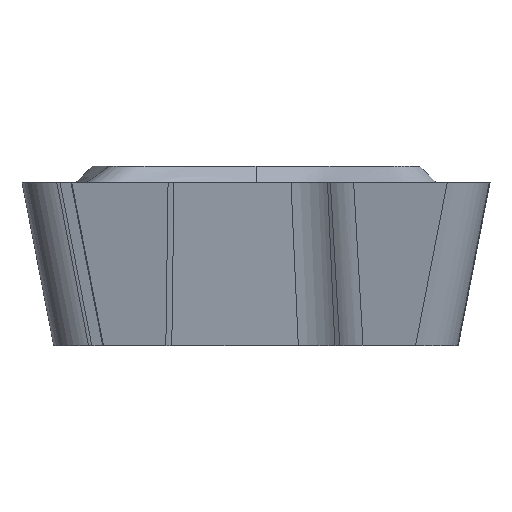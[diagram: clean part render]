
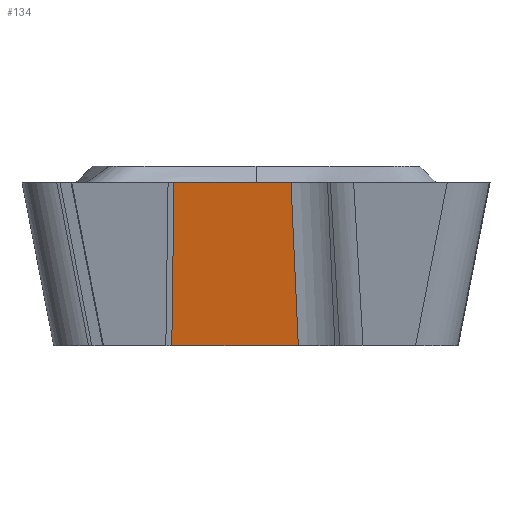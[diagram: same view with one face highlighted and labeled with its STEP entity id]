
A CAD part, front view. The second image highlights one B-rep face of the part: STEP entity #134.
In plain terms, the highlighted planar face has unit normal (0.137, -0.972, -0.191).
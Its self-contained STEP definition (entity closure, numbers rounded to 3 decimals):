
#81=FACE_OUTER_BOUND('',#232,.T.);
#134=ADVANCED_FACE('',(#81),#182,.T.);
#182=PLANE('',#1413);
#232=EDGE_LOOP('',(#407,#408,#409,#410));
#407=ORIENTED_EDGE('',*,*,#667,.F.);
#408=ORIENTED_EDGE('',*,*,#779,.T.);
#409=ORIENTED_EDGE('',*,*,#754,.T.);
#410=ORIENTED_EDGE('',*,*,#780,.T.);
#569=VERTEX_POINT('',#1858);
#570=VERTEX_POINT('',#1860);
#656=VERTEX_POINT('',#2153);
#657=VERTEX_POINT('',#2155);
#667=EDGE_CURVE('',#569,#570,#1138,.T.);
#754=EDGE_CURVE('',#657,#656,#1175,.T.);
#779=EDGE_CURVE('',#569,#657,#1194,.T.);
#780=EDGE_CURVE('',#656,#570,#1195,.T.);
#1138=LINE('',#1859,#1242);
#1175=LINE('',#2154,#1279);
#1194=LINE('',#2408,#1298);
#1195=LINE('',#2409,#1299);
#1242=VECTOR('',#1529,1.);
#1279=VECTOR('',#1660,1.);
#1298=VECTOR('',#1705,1.);
#1299=VECTOR('',#1706,1.);
#1413=AXIS2_PLACEMENT_3D('',#2410,#1707,#1708);
#1529=DIRECTION('',(0.99,0.139,0.));
#1660=DIRECTION('',(0.99,0.139,0.));
#1705=DIRECTION('',(-0.013,0.191,-0.982));
#1706=DIRECTION('',(-0.044,-0.198,0.979));
#1707=DIRECTION('',(0.137,-0.972,-0.191));
#1708=DIRECTION('',(0.,0.193,-0.981));
#1858=CARTESIAN_POINT('',(-1.507,-4.292,-0.3));
#1859=CARTESIAN_POINT('',(-1.561,-4.3,-0.3));
#1860=CARTESIAN_POINT('',(0.643,-3.99,-0.3));
#2153=CARTESIAN_POINT('',(0.777,-3.382,-3.3));
#2154=CARTESIAN_POINT('',(-2.758,-3.879,-3.3));
#2155=CARTESIAN_POINT('',(-1.548,-3.709,-3.3));
#2408=CARTESIAN_POINT('',(-1.507,-4.292,-0.299));
#2409=CARTESIAN_POINT('',(0.644,-3.985,-0.326));
#2410=CARTESIAN_POINT('',(-1.561,-4.3,-0.3));
